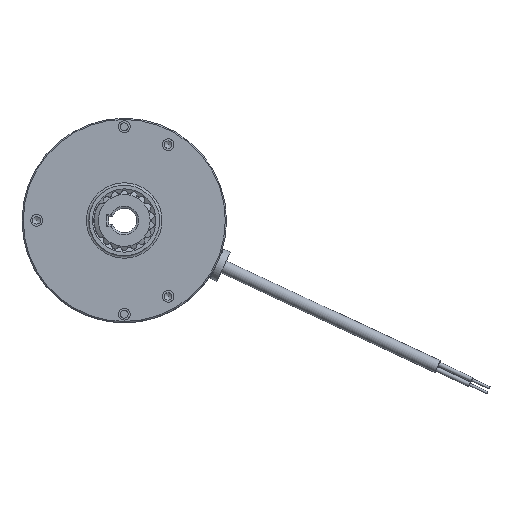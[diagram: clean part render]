
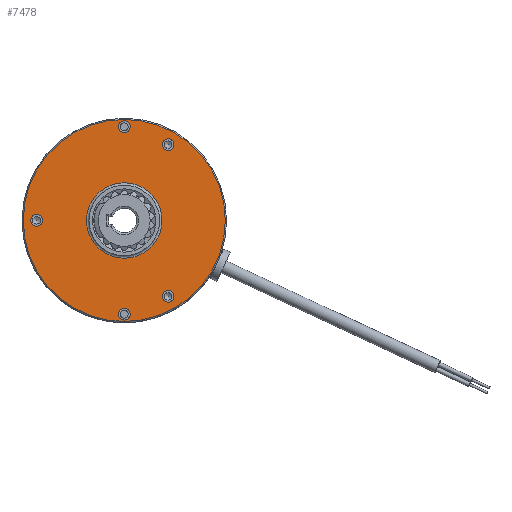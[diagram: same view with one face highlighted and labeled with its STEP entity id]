
A CAD part, left-side view. The second image highlights one B-rep face of the part: STEP entity #7478.
In plain terms, the highlighted planar face has unit normal (-1, 0, 0).
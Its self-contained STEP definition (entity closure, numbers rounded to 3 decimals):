
#539=FACE_BOUND('',#1806,.T.);
#540=FACE_BOUND('',#1807,.T.);
#541=FACE_BOUND('',#1808,.T.);
#542=FACE_BOUND('',#1809,.T.);
#543=FACE_BOUND('',#1810,.T.);
#544=FACE_BOUND('',#1811,.T.);
#953=CIRCLE('',#8279,15.5);
#956=CIRCLE('',#8283,2.4);
#959=CIRCLE('',#8287,2.4);
#962=CIRCLE('',#8291,2.4);
#965=CIRCLE('',#8295,2.4);
#968=CIRCLE('',#8299,2.4);
#969=CIRCLE('',#8301,41.5);
#1374=FACE_OUTER_BOUND('',#1805,.T.);
#1805=EDGE_LOOP('',(#6444));
#1806=EDGE_LOOP('',(#6445));
#1807=EDGE_LOOP('',(#6446));
#1808=EDGE_LOOP('',(#6447));
#1809=EDGE_LOOP('',(#6448));
#1810=EDGE_LOOP('',(#6449));
#1811=EDGE_LOOP('',(#6450));
#3330=VERTEX_POINT('',#13863);
#3333=VERTEX_POINT('',#13871);
#3336=VERTEX_POINT('',#13879);
#3339=VERTEX_POINT('',#13887);
#3342=VERTEX_POINT('',#13895);
#3345=VERTEX_POINT('',#13903);
#3346=VERTEX_POINT('',#13907);
#4377=EDGE_CURVE('',#3330,#3330,#953,.T.);
#4381=EDGE_CURVE('',#3333,#3333,#956,.T.);
#4385=EDGE_CURVE('',#3336,#3336,#959,.T.);
#4389=EDGE_CURVE('',#3339,#3339,#962,.T.);
#4393=EDGE_CURVE('',#3342,#3342,#965,.T.);
#4397=EDGE_CURVE('',#3345,#3345,#968,.T.);
#4398=EDGE_CURVE('',#3346,#3346,#969,.T.);
#6444=ORIENTED_EDGE('',*,*,#4398,.F.);
#6445=ORIENTED_EDGE('',*,*,#4377,.T.);
#6446=ORIENTED_EDGE('',*,*,#4381,.T.);
#6447=ORIENTED_EDGE('',*,*,#4385,.T.);
#6448=ORIENTED_EDGE('',*,*,#4389,.T.);
#6449=ORIENTED_EDGE('',*,*,#4393,.T.);
#6450=ORIENTED_EDGE('',*,*,#4397,.T.);
#6719=PLANE('',#8300);
#7478=ADVANCED_FACE('',(#1374,#539,#540,#541,#542,#543,#544),#6719,.T.);
#8279=AXIS2_PLACEMENT_3D('',#13865,#10208,#10209);
#8283=AXIS2_PLACEMENT_3D('',#13873,#10217,#10218);
#8287=AXIS2_PLACEMENT_3D('',#13881,#10226,#10227);
#8291=AXIS2_PLACEMENT_3D('',#13889,#10235,#10236);
#8295=AXIS2_PLACEMENT_3D('',#13897,#10244,#10245);
#8299=AXIS2_PLACEMENT_3D('',#13905,#10253,#10254);
#8300=AXIS2_PLACEMENT_3D('',#13906,#10255,#10256);
#8301=AXIS2_PLACEMENT_3D('',#13908,#10257,#10258);
#10208=DIRECTION('center_axis',(1.,0.,0.));
#10209=DIRECTION('ref_axis',(0.,0.,1.));
#10217=DIRECTION('center_axis',(1.,0.,0.));
#10218=DIRECTION('ref_axis',(0.,0.,
-1.));
#10226=DIRECTION('center_axis',(1.,0.,0.));
#10227=DIRECTION('ref_axis',(0.,0.,
-1.));
#10235=DIRECTION('center_axis',(1.,0.,0.));
#10236=DIRECTION('ref_axis',(0.,0.,
-1.));
#10244=DIRECTION('center_axis',(1.,0.,0.));
#10245=DIRECTION('ref_axis',(0.,0.,
-1.));
#10253=DIRECTION('center_axis',(1.,0.,0.));
#10254=DIRECTION('ref_axis',(0.,0.,
-1.));
#10255=DIRECTION('center_axis',(-1.,0.,0.));
#10256=DIRECTION('ref_axis',(0.,0.,1.));
#10257=DIRECTION('center_axis',(1.,0.,0.));
#10258=DIRECTION('ref_axis',(0.,-1.,0.));
#13863=CARTESIAN_POINT('',(-24.6,0.,-15.5));
#13865=CARTESIAN_POINT('Origin',(-24.6,0.,0.));
#13871=CARTESIAN_POINT('',(-24.6,-18.,-28.777));
#13873=CARTESIAN_POINT('Origin',(-24.6,-18.,-31.177));
#13879=CARTESIAN_POINT('',(-24.6,36.,2.4));
#13881=CARTESIAN_POINT('Origin',(-24.6,36.,0.));
#13887=CARTESIAN_POINT('',(-24.6,-18.,33.577));
#13889=CARTESIAN_POINT('Origin',(-24.6,-18.,31.177));
#13895=CARTESIAN_POINT('',(-24.6,0.,-36.1));
#13897=CARTESIAN_POINT('Origin',(-24.6,0.,-38.5));
#13903=CARTESIAN_POINT('',(-24.6,0.,40.9));
#13905=CARTESIAN_POINT('Origin',(-24.6,0.,38.5));
#13906=CARTESIAN_POINT('Origin',(-24.6,21.,0.));
#13907=CARTESIAN_POINT('',(-24.6,41.5,0.));
#13908=CARTESIAN_POINT('Origin',(-24.6,0.,0.));
